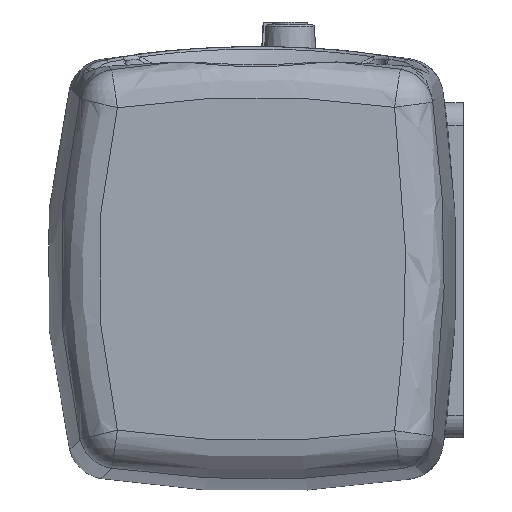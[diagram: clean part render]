
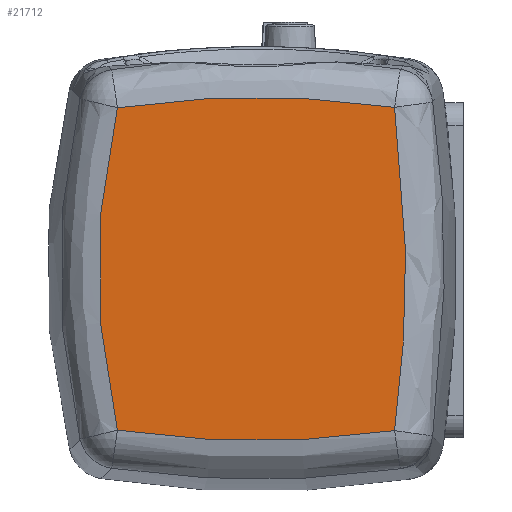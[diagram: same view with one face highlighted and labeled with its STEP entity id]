
A CAD part, left-side view. The second image highlights one B-rep face of the part: STEP entity #21712.
In plain terms, the highlighted planar face has unit normal (-1, 0, 0).
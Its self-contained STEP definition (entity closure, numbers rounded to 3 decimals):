
#358=B_SPLINE_CURVE_WITH_KNOTS('',3,(#36898,#36899,#36900,#36901),
 .UNSPECIFIED.,.F.,.F.,(4,4),(0.,5.76),.UNSPECIFIED.);
#371=B_SPLINE_CURVE_WITH_KNOTS('',3,(#37171,#37172,#37173,#37174),
 .UNSPECIFIED.,.F.,.F.,(4,4),(0.,6.717),.UNSPECIFIED.);
#373=B_SPLINE_CURVE_WITH_KNOTS('',3,(#37208,#37209,#37210,#37211),
 .UNSPECIFIED.,.F.,.F.,(4,4),(0.,5.76),.UNSPECIFIED.);
#375=B_SPLINE_CURVE_WITH_KNOTS('',3,(#37253,#37254,#37255,#37256,#37257),
 .UNSPECIFIED.,.F.,.F.,(4,1,4),(0.,2.888,6.74),
 .UNSPECIFIED.);
#1796=PLANE('',#23292);
#2587=FACE_OUTER_BOUND('',#3974,.T.);
#3974=EDGE_LOOP('',(#15597,#15598,#15599,#15600));
#9369=VERTEX_POINT('',#36895);
#9370=VERTEX_POINT('',#36897);
#9382=VERTEX_POINT('',#37163);
#9384=VERTEX_POINT('',#37199);
#11650=EDGE_CURVE('',#9369,#9370,#358,.T.);
#11682=EDGE_CURVE('',#9370,#9382,#371,.T.);
#11686=EDGE_CURVE('',#9382,#9384,#373,.T.);
#11691=EDGE_CURVE('',#9384,#9369,#375,.T.);
#15597=ORIENTED_EDGE('',*,*,#11682,.F.);
#15598=ORIENTED_EDGE('',*,*,#11650,.F.);
#15599=ORIENTED_EDGE('',*,*,#11691,.F.);
#15600=ORIENTED_EDGE('',*,*,#11686,.F.);
#21712=ADVANCED_FACE('',(#2587),#1796,.F.);
#23292=AXIS2_PLACEMENT_3D('',#37335,#26012,#26013);
#26012=DIRECTION('center_axis',(1.,0.,0.));
#26013=DIRECTION('ref_axis',(0.,0.,-1.));
#36895=CARTESIAN_POINT('',(0.,36.493,15.889));
#36897=CARTESIAN_POINT('',(0.,-20.892,15.979));
#36898=CARTESIAN_POINT('Ctrl Pts',(0.,36.493,15.889));
#36899=CARTESIAN_POINT('Ctrl Pts',(0.,17.51,18.758));
#36900=CARTESIAN_POINT('Ctrl Pts',(0.,-1.9,18.788));
#36901=CARTESIAN_POINT('Ctrl Pts',(0.,-20.892,15.979));
#37163=CARTESIAN_POINT('',(0.,-20.892,-50.979));
#37171=CARTESIAN_POINT('Ctrl Pts',(0.,-20.892,15.979));
#37172=CARTESIAN_POINT('Ctrl Pts',(0.,-23.962,-6.199));
#37173=CARTESIAN_POINT('Ctrl Pts',(0.,-23.962,-28.801));
#37174=CARTESIAN_POINT('Ctrl Pts',(0.,-20.892,-50.979));
#37199=CARTESIAN_POINT('',(0.,36.493,-50.889));
#37208=CARTESIAN_POINT('Ctrl Pts',(0.,-20.892,-50.979));
#37209=CARTESIAN_POINT('Ctrl Pts',(0.,-1.9,-53.788));
#37210=CARTESIAN_POINT('Ctrl Pts',(0.,17.51,-53.758));
#37211=CARTESIAN_POINT('Ctrl Pts',(0.,36.493,-50.889));
#37253=CARTESIAN_POINT('Ctrl Pts',(0.,36.493,-50.889));
#37254=CARTESIAN_POINT('Ctrl Pts',(0.,38.737,-41.526));
#37255=CARTESIAN_POINT('Ctrl Pts',(0.,41.763,-19.149));
#37256=CARTESIAN_POINT('Ctrl Pts',(0.,39.484,3.405));
#37257=CARTESIAN_POINT('Ctrl Pts',(0.,36.493,15.889));
#37335=CARTESIAN_POINT('Origin',(0.,7.932,-17.5));
